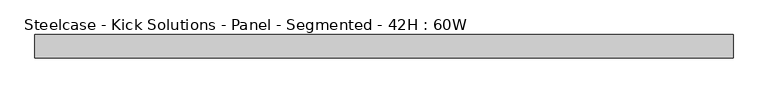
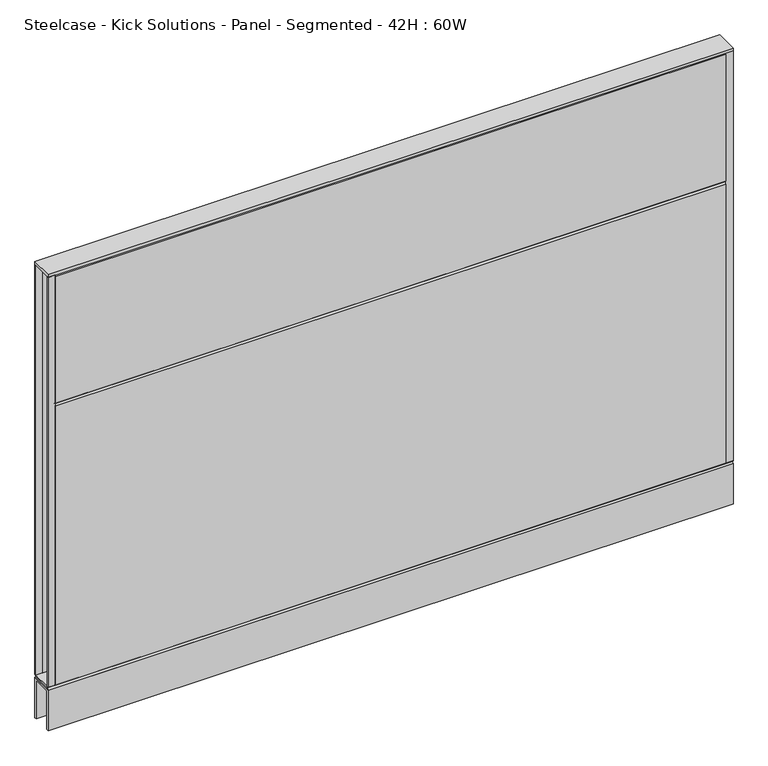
"""IFC4 building model written with IfcOpenShell, lengths in millimetres: furniture geometry, Steelcase - Kick Solutions - Panel - Segmented - 42H : 60W."""

from ifc_helpers import new_model, si_unit, frame, origin, place, context, project, spatial, polyline, outline, extrude, source, transform, mapped, element, save


def steelcase_kick_solutions_panel_segmented_42h_60w_da416ed1(model_context):
    return source(origin(), model_context, "Body", "SweptSolid", [
        extrude(outline(polyline([(1.5e-06, 101.600003), (-3.175, 101.600003), (-3.175, 1066.8), (1.5e-06, 1063.7188448), (1.5e-06, 101.600003)])), frame((15.8749996, 0.0, 0.0), z_axis=(1.0, 0.0, 0.0), x_axis=(0.0, 1.0, 0.0)), (0.0, 0.0, 1.0), 1492.2500008),
        extrude(outline(polyline([(-50.8000015, 765.0811552), (-50.8000015, 1063.7188448), (-47.625, 1066.8), (-47.625, 762.0), (-50.8000015, 765.0811552)])), frame((15.8749996, 0.0, 0.0), z_axis=(1.0, 0.0, 0.0), x_axis=(0.0, 1.0, 0.0)), (0.0, 0.0, 1.0), 1492.2500008),
        extrude(outline(polyline([(-50.8000015, 101.600003), (-50.8000015, 758.9188448), (-47.625, 762.0), (-47.625, 101.600003), (-50.8000015, 101.600003)])), frame((15.8749996, 0.0, 0.0), z_axis=(1.0, 0.0, 0.0), x_axis=(0.0, 1.0, 0.0)), (0.0, 0.0, 1.0), 1492.2500008),
        extrude(outline(polyline([(1524.0, -3.1750015), (1508.1250004, -3.1750015), (1508.1250004, 0.0), (1524.0, 0.0), (1524.0, -3.1750015)])), frame((0.0, 0.0, 101.7169049), z_axis=(0.0, 0.0, 1.0), x_axis=(1.0, 0.0, 0.0)), (0.0, 0.0, 1.0), 965.199997),
        extrude(outline(polyline([(15.8749996, -50.8000015), (0.0, -50.8000015), (0.0, -47.625), (15.8749996, -47.625), (15.8749996, -50.8000015)])), frame((0.0, 0.0, 101.7169049), z_axis=(0.0, 0.0, 1.0), x_axis=(1.0, 0.0, 0.0)), (0.0, 0.0, 1.0), 965.199997),
        extrude(outline(polyline([(-50.7995075, 101.7169049), (-0.000494, 101.7169049), (-3.0583512, 98.5421458), (-47.7416503, 98.5421458), (-50.7995075, 101.7169049)])), frame((0.0, 0.0, 0.0), z_axis=(1.0, 0.0, 0.0), x_axis=(0.0, 1.0, 0.0)), (0.0, 0.0, 1.0), 1524.0),
        extrude(outline(polyline([(1524.0, 0.0), (1524.0, -50.8000015), (0.0, -50.8000015), (0.0, 0.0), (1524.0, 0.0)])), frame((0.0, 0.0, 1066.9169018), z_axis=(0.0, 0.0, 1.0), x_axis=(1.0, 0.0, 0.0)), (0.0, 0.0, 1.0), 6.35),
        extrude(outline(polyline([(15.8749996, -3.1750015), (0.0, -3.1750015), (0.0, 0.0), (15.8749996, 0.0), (15.8749996, -3.1750015)])), frame((0.0, 0.0, 101.7169049), z_axis=(0.0, 0.0, 1.0), x_axis=(1.0, 0.0, 0.0)), (0.0, 0.0, 1.0), 965.199997),
        extrude(outline(polyline([(1524.0, -50.8000015), (1508.1250004, -50.8000015), (1508.1250004, -47.625), (1524.0, -47.625), (1524.0, -50.8000015)])), frame((0.0, 0.0, 101.7169049), z_axis=(0.0, 0.0, 1.0), x_axis=(1.0, 0.0, 0.0)), (0.0, 0.0, 1.0), 965.199997),
        extrude(outline(polyline([(-50.8000015, 95.3668927), (-47.6247484, 98.5421458), (-3.1752531, 98.5421458), (0.0, 95.3668927), (-50.8000015, 95.3668927)])), frame((0.0, 0.0, 0.0), z_axis=(1.0, 0.0, 0.0), x_axis=(0.0, 1.0, 0.0)), (0.0, 0.0, 1.0), 1524.0),
        extrude(outline(polyline([(0.0, 0.0), (-5.08, 0.0), (-5.08, 90.2869018), (-45.7200015, 90.2869018), (-45.7200015, 0.0), (-50.8000015, 0.0), (-50.8000015, 95.3669018), (0.0, 95.3669018), (0.0, 0.0)])), frame((0.0, 0.0, 0.0), z_axis=(1.0, 0.0, 0.0), x_axis=(0.0, 1.0, 0.0)), (0.0, 0.0, 1.0), 1524.0),
    ])


if __name__ == "__main__":
    model = new_model("IFC4")
    model_context = context("Model", 3, world=origin())
    ifc_project = project(units=[si_unit("LENGTHUNIT", "METRE", prefix="MILLI")], contexts=[model_context])
    site = spatial("IfcSite", under=ifc_project)
    building = spatial("IfcBuilding", under=site)
    placement = place(None, origin())
    steelcase_kick_solutions_panel_segmented_42h_60w_shape = steelcase_kick_solutions_panel_segmented_42h_60w_da416ed1(model_context)
    element("IfcFurniture", 1, ObjectType="Steelcase - Kick Solutions - Panel - Segmented - 42H : 60W", at=placement, inside=building, context=model_context, shape_type="MappedRepresentation", body=[
        mapped(steelcase_kick_solutions_panel_segmented_42h_60w_shape, transform((0.0, 0.0, 0.0), x_axis=(1.0, 0.0, 0.0), y_axis=(0.0, 1.0, 0.0), z_axis=(0.0, 0.0, 1.0))),
    ])
    save(model, "model.ifc")
